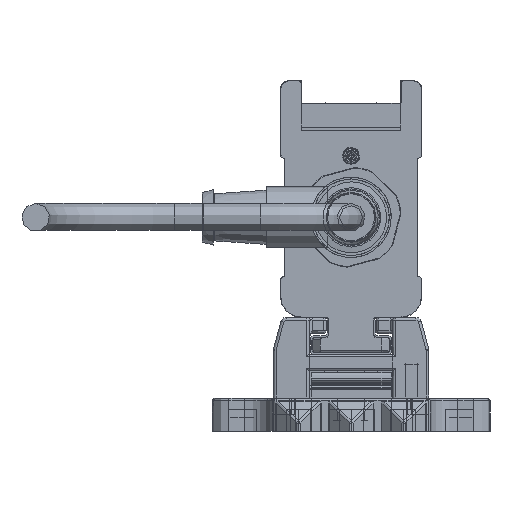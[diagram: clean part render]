
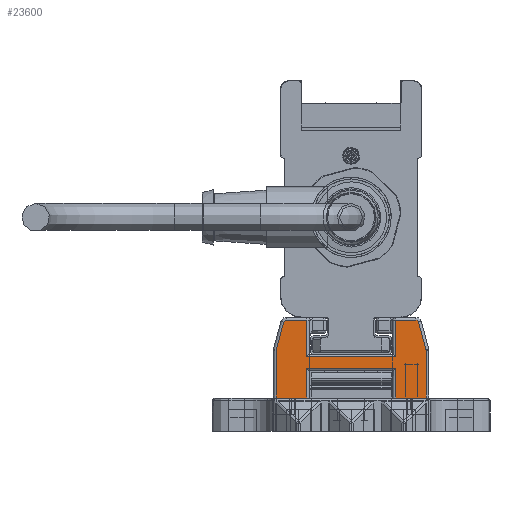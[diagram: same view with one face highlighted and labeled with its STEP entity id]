
A CAD part, left-side view. The second image highlights one B-rep face of the part: STEP entity #23600.
In plain terms, the highlighted planar face has unit normal (-1, 0, 0).
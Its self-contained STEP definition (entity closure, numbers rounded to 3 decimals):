
#23600=ADVANCED_FACE('', (#23610), #23620, .T.);
#189050=AXIS2_PLACEMENT_3D('Ax2Pl3d', #189060, #189070, #189080);
#189290=AXIS2_PLACEMENT_3D('Ax2Pl3d', #189300, #189310, #189320);
#194170=AXIS2_PLACEMENT_3D('Ax2Pl3d', #194180, #194190, #194200);
#199250=AXIS2_PLACEMENT_3D('Ax2Pl3d', #199260, #199270, #199280);
#208930=AXIS2_PLACEMENT_3D('Ax2Pl3d', #208940, #208950, #208960);
#844600=CARTESIAN_POINT('', (-747.669,-6166.345,
331.37));
#189060=CARTESIAN_POINT('HicPkt', (-747.669,-6165.379,
331.111));
#844610=CARTESIAN_POINT('', (-747.669,-6166.379,331.111)
);
#844620=CARTESIAN_POINT('', (-747.669,-6165.037,
336.255));
#844640=CARTESIAN_POINT('', (-747.669,-6165.037,
336.255));
#844670=CARTESIAN_POINT('', (-747.669,-6164.554,
336.625));
#189300=CARTESIAN_POINT('HicPkt', (-747.669,-6164.554,
336.125));
#844890=CARTESIAN_POINT('', (-747.669,-6166.379,322.625)
);
#844900=CARTESIAN_POINT('', (-747.669,-6160.881,322.625)
);
#844910=CARTESIAN_POINT('', (-747.669,-6160.881,322.625)
);
#844990=CARTESIAN_POINT('', (-747.669,-6144.881,322.625)
);
#845000=CARTESIAN_POINT('', (-747.669,-6139.383,322.625)
);
#845010=CARTESIAN_POINT('', (-747.669,-6139.383,322.625)
);
#194180=CARTESIAN_POINT('HicPkt', (-747.669,-6141.209,
336.125));
#847480=CARTESIAN_POINT('', (-747.669,-6140.726,
336.255));
#847490=CARTESIAN_POINT('', (-747.669,-6141.209,
336.625));
#847500=CARTESIAN_POINT('', (-747.669,-6160.881,
330.025));
#847510=CARTESIAN_POINT('', (-747.669,-6144.881,
330.025));
#847520=CARTESIAN_POINT('', (-747.669,-6160.881,
330.025));
#847680=CARTESIAN_POINT('', (-747.669,-6160.881,
328.005));
#847690=CARTESIAN_POINT('', (-747.669,-6144.881,
328.005));
#847700=CARTESIAN_POINT('', (-747.669,-6144.881,
328.005));
#847710=CARTESIAN_POINT('', (-747.669,-6160.881,
328.005));
#847730=CARTESIAN_POINT('', (-747.669,-6144.881,322.625)
);
#847740=CARTESIAN_POINT('', (-747.669,-6144.881,
330.025));
#847750=CARTESIAN_POINT('', (-747.669,-6144.881,
336.625));
#848600=CARTESIAN_POINT('', (-747.669,-6144.881,
336.625));
#848610=CARTESIAN_POINT('', (-747.669,-6140.726,
336.255));
#848620=CARTESIAN_POINT('', (-747.669,-6139.417,
331.37));
#848810=CARTESIAN_POINT('', (-747.669,-6139.383,331.111)
);
#848820=CARTESIAN_POINT('', (-747.669,-6139.383,331.111)
);
#199260=CARTESIAN_POINT('HicPkt', (-747.669,-6140.383,
331.111));
#849630=CARTESIAN_POINT('', (-747.669,-6166.379,331.111)
);
#208940=CARTESIAN_POINT('HicPkt', (-747.669,-6164.554,
336.625));
#851430=CARTESIAN_POINT('', (-747.669,-6160.881,
336.625));
#851440=CARTESIAN_POINT('', (-747.669,-6160.881,
336.625));
#851450=CARTESIAN_POINT('', (-747.669,-6160.881,
336.625));
#981330=CIRCLE('Circle', #189050, 1.);
#981370=CIRCLE('Circle', #189290, 0.5);
#981950=CIRCLE('Circle', #194170, 0.5);
#982480=CIRCLE('Circle', #199250, 1.);
#189070=DIRECTION('Axis', (-1.,0.,
0.));
#189080=DIRECTION('RefDirection', (0.,
0.,-1.));
#1367870=DIRECTION('', (0.,0.259,
0.966));
#189310=DIRECTION('Axis', (-1.,0.,
0.));
#189320=DIRECTION('RefDirection', (0.,
0.,-1.));
#1367980=DIRECTION('', (0.,1.,0.));
#1368020=DIRECTION('', (0.,1.,0.));
#194190=DIRECTION('Axis', (1.,0.,
0.));
#194200=DIRECTION('RefDirection', (0.,
0.,-1.));
#1369210=DIRECTION('', (0.,-1.,0.));
#1369310=DIRECTION('', (0.,1.,0.));
#1369320=DIRECTION('', (0.,0.,1.));
#1369340=DIRECTION('', (0.,0.,-1.));
#1369350=DIRECTION('', (0.,0.,-1.));
#1369780=DIRECTION('', (0.,-1.,0.))
;
#1369790=DIRECTION('', (0.,-0.259,0.966));
#1369880=DIRECTION('', (0.,0.,1.));
#199270=DIRECTION('Axis', (1.,0.,
0.));
#199280=DIRECTION('RefDirection', (0.,
0.,-1.));
#1370250=DIRECTION('', (0.,0.,1.));
#208950=DIRECTION('Axis', (-1.,0.,
0.));
#208960=DIRECTION('RefDirection', (0.,
0.,-1.));
#1371090=DIRECTION('', (0.,1.,0.));
#1371100=DIRECTION('', (0.,0.,1.));
#1456860=EDGE_CURVE('', #1456870, #1456850, #981330, .T.);
#1456920=EDGE_CURVE('', #1456850, #1456900, #1456930, .T.);
#1456990=EDGE_CURVE('', #1456900, #1456980, #981370, .T.);
#1457440=EDGE_CURVE('', #1457430, #1457450, #1457460, .T.);
#1457600=EDGE_CURVE('', #1457590, #1457610, #1457620, .T.);
#1461960=EDGE_CURVE('', #1461970, #1461980, #981950, .T.);
#1462010=EDGE_CURVE('', #1462020, #1462030, #1462040, .T.);
#1462380=EDGE_CURVE('', #1462360, #1462390, #1462400, .T.);
#1462430=EDGE_CURVE('', #1457450, #1462360, #1462440, .T.);
#1462470=EDGE_CURVE('', #1462390, #1457590, #1462480, .T.);
#1462490=EDGE_CURVE('', #1462500, #1462020, #1462510, .T.);
#1464330=EDGE_CURVE('', #1461980, #1462500, #1464340, .T.);
#1464400=EDGE_CURVE('', #1464410, #1461970, #1464420, .T.);
#1464840=EDGE_CURVE('', #1457610, #1464850, #1464860, .T.);
#1464880=EDGE_CURVE('', #1464850, #1464410, #982480, .T.);
#1466590=EDGE_CURVE('', #1457430, #1456870, #1466600, .T.);
#1470400=EDGE_CURVE('', #1456980, #1470410, #1470420, .T.);
#1470430=EDGE_CURVE('', #1462030, #1470410, #1470440, .T.);
#1750440=EDGE_LOOP('Edge_loop', (#1750450,#1750460,#1750470,#1750480,
#1750490,#1750500,#1750510,#1750520,#1750530,#1750540,#1750550,
#1750560,#1750570,#1750580,#1750590,#1750600,#1750610,#1750620));
#23610=FACE_OUTER_BOUND('Face_outer_bound', #1750440, .T.);
#1456930=LINE('Line', #844640, #2017940);
#1457460=LINE('Line', #844900, #2018050);
#1457620=LINE('Line', #845000, #2018090);
#1462040=LINE('Line', #847500, #2019280);
#1462400=LINE('Line', #847690, #2019380);
#1462440=LINE('Line', #847710, #2019390);
#1462480=LINE('Line', #847730, #2019410);
#1462510=LINE('Line', #847740, #2019420);
#1464340=LINE('Line', #848600, #2019850);
#1464420=LINE('Line', #848610, #2019860);
#1464860=LINE('Line', #848810, #2019950);
#1466600=LINE('Line', #849630, #2020320);
#1470420=LINE('Line', #851430, #2021160);
#1470440=LINE('Line', #851450, #2021170);
#1750450=ORIENTED_EDGE('', *, *, #1470400, .T.);
#1750460=ORIENTED_EDGE('', *, *, #1470430, .F.);
#1750470=ORIENTED_EDGE('', *, *, #1462010, .F.);
#1750480=ORIENTED_EDGE('', *, *, #1462490, .F.);
#1750490=ORIENTED_EDGE('', *, *, #1464330, .F.);
#1750500=ORIENTED_EDGE('', *, *, #1461960, .F.);
#1750510=ORIENTED_EDGE('', *, *, #1464400, .F.);
#1750520=ORIENTED_EDGE('', *, *, #1464880, .F.);
#1750530=ORIENTED_EDGE('', *, *, #1464840, .F.);
#1750540=ORIENTED_EDGE('', *, *, #1457600, .F.);
#1750550=ORIENTED_EDGE('', *, *, #1462470, .F.);
#1750560=ORIENTED_EDGE('', *, *, #1462380, .F.);
#1750570=ORIENTED_EDGE('', *, *, #1462430, .F.);
#1750580=ORIENTED_EDGE('', *, *, #1457440, .F.);
#1750590=ORIENTED_EDGE('', *, *, #1466590, .T.);
#1750600=ORIENTED_EDGE('', *, *, #1456860, .T.);
#1750610=ORIENTED_EDGE('', *, *, #1456920, .T.);
#1750620=ORIENTED_EDGE('', *, *, #1456990, .T.);
#23620=PLANE('Plane', #208930);
#2017940=VECTOR('', #1367870, 5.057);
#2018050=VECTOR('', #1367980, 5.498);
#2018090=VECTOR('', #1368020, 5.498);
#2019280=VECTOR('', #1369210, 16.);
#2019380=VECTOR('', #1369310, 16.);
#2019390=VECTOR('', #1369320, 5.38);
#2019410=VECTOR('', #1369340, 5.38);
#2019420=VECTOR('', #1369350, 6.6);
#2019850=VECTOR('', #1369780, 3.672);
#2019860=VECTOR('', #1369790, 5.057);
#2019950=VECTOR('', #1369880, 8.486);
#2020320=VECTOR('', #1370250, 8.486);
#2021160=VECTOR('', #1371090, 3.672);
#2021170=VECTOR('', #1371100, 6.6);
#1456850=VERTEX_POINT('', #844600);
#1456870=VERTEX_POINT('', #844610);
#1456900=VERTEX_POINT('', #844620);
#1456980=VERTEX_POINT('', #844670);
#1457430=VERTEX_POINT('', #844890);
#1457450=VERTEX_POINT('', #844910);
#1457590=VERTEX_POINT('', #844990);
#1457610=VERTEX_POINT('', #845010);
#1461970=VERTEX_POINT('', #847480);
#1461980=VERTEX_POINT('', #847490);
#1462020=VERTEX_POINT('', #847510);
#1462030=VERTEX_POINT('', #847520);
#1462360=VERTEX_POINT('', #847680);
#1462390=VERTEX_POINT('', #847700);
#1462500=VERTEX_POINT('', #847750);
#1464410=VERTEX_POINT('', #848620);
#1464850=VERTEX_POINT('', #848820);
#1470410=VERTEX_POINT('', #851440);
